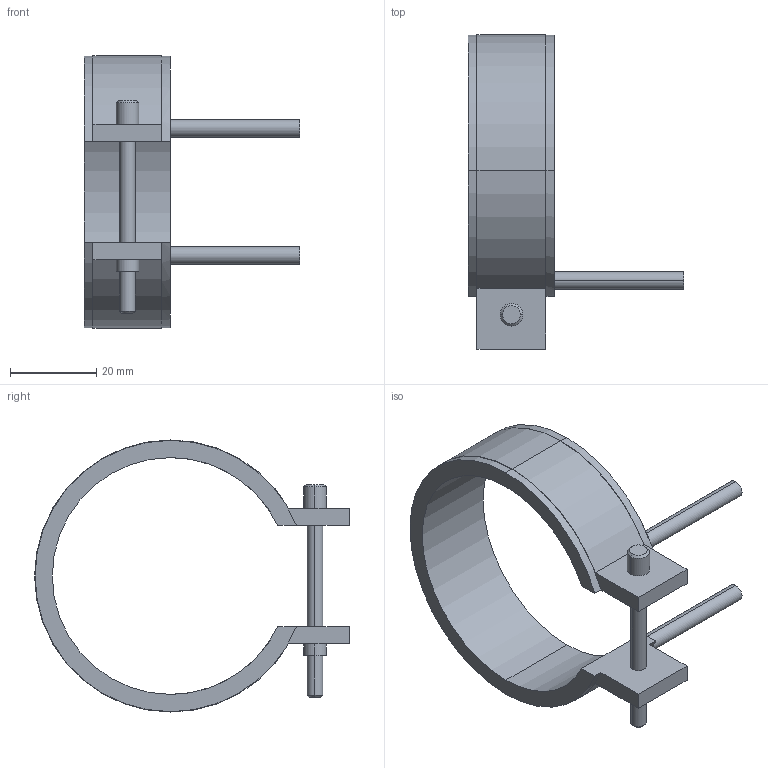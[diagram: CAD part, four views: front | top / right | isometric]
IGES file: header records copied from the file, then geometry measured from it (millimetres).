
Start section: START RECORD GO HERE.
Global section: file name: 14055020.igs; native system: DASSAULT SYSTEMES CATIA V5 R20 - www.3ds.com; preprocessor: CATIA Version 5 Release 20 ; author: Utente; organization: NB04-ASUS; date: 20210401.113820; units: millimetre
Bounding box: 50 x 73.1 x 63.2 mm (x, y, z)
Surface area: 10236.6 mm2 (no closed solid volume)
Topology: 0 solids, 0 shells, 45 faces, 232 edges, 232 vertices
Faces by surface type: revolution 28, plane 17
